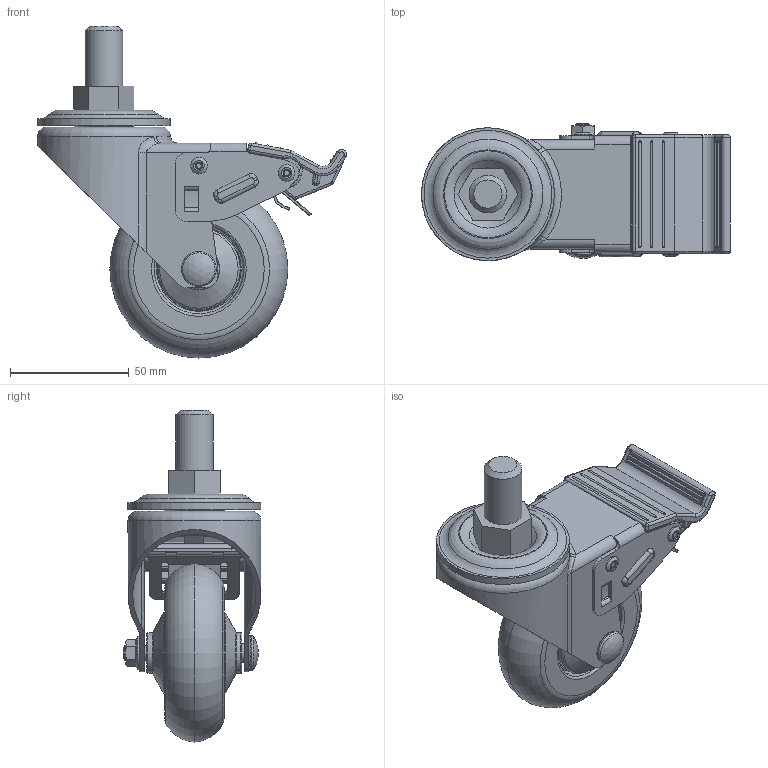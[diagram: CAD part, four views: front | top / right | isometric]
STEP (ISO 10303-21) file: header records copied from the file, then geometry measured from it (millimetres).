
FILE_DESCRIPTION(/* description */ (''),/* implementation_level */ '2;1');
FILE_NAME(/* name */ 'E:\홈피용도면\\X2\C2E0ADDCD648D398C774C9C0C6A9B3C4BA74\X0\\무소음캐스터\20160225-\X2\BB34C18CC74CCE90C2A4D130\X0\\GL-75-BSS.stp',/* time_stamp */ '2016-02-25T20:44:45+09:00',/* author */ ('장용하'),/* organization */ (''),/* preprocessor_version */ 'ST-DEVELOPER v15.6',/* originating_system */ 'Autodesk Inventor 2015',/* authorisation */ '');
FILE_SCHEMA (('AUTOMOTIVE_DESIGN { 1 0 10303 214 3 1 1 }'));
Length unit declared in the file: millimetre
Products named in the file (1): GL-75-BSS
Bounding box: 130.21 x 58 x 139.9 mm (x, y, z)
Volume: 161442.8 mm3; surface area: 70991.6 mm2
Topology: 3 solids, 3 shells, 711 faces, 1847 edges, 1164 vertices
Faces by surface type: cylinder 268, plane 250, torus 93, bspline 41, cone 31, sphere 28
Full cylindrical faces by diameter (mm): 5 x2, 5.2 x5, 6 x2, 6.2 x1, 7 x5, 8 x1, 11 x1, 11.2 x1, 14 x1, 14.6 x1, 15.875 x1, 24.645 x1, 41 x1, 56 x1
Entity records: 24151 total; most frequent: CARTESIAN_POINT 6940, DIRECTION 3740, ORIENTED_EDGE 3436, EDGE_CURVE 1718, AXIS2_PLACEMENT_3D 1474, VERTEX_POINT 1147, EDGE_LOOP 895, LINE 792
